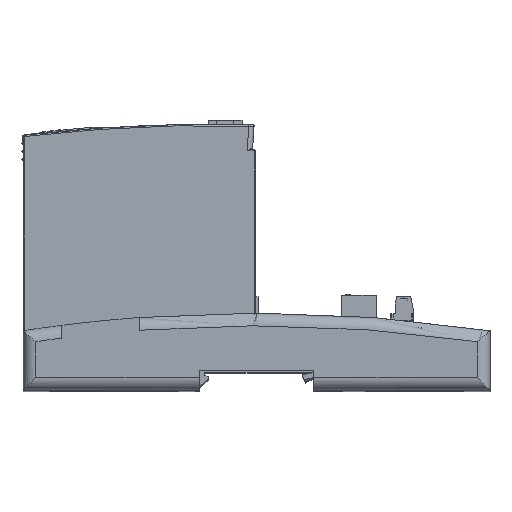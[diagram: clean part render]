
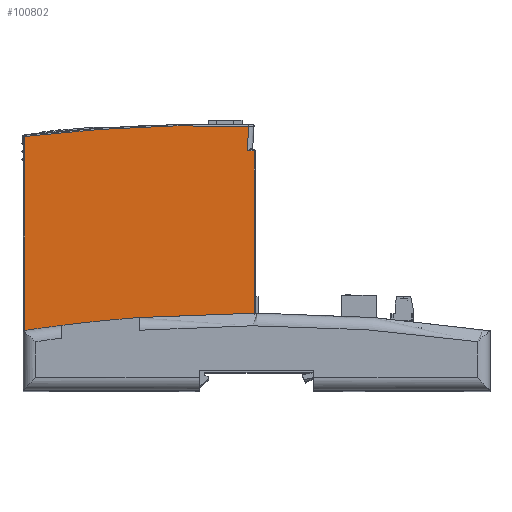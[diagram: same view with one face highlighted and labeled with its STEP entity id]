
A CAD part, top view. The second image highlights one B-rep face of the part: STEP entity #100802.
In plain terms, the highlighted planar face has unit normal (0, 0, 1).
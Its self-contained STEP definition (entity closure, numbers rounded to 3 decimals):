
#28015=CARTESIAN_POINT('',(86.601,92.3,
-0.204));
#28042=DIRECTION('',(1.,0.,-0.001));
#28043=VECTOR('',#28042,3.);
#28044=CARTESIAN_POINT('',(30.6,21.1,-0.2));
#28045=LINE('',#28044,#28043);
#28046=DIRECTION('',(-1.,0.,0.));
#28047=VECTOR('',#28046,25.);
#28048=CARTESIAN_POINT('',(28.6,21.1,-0.203));
#28049=LINE('',#28048,#28047);
#28050=DIRECTION('',(0.,1.,0.));
#28051=VECTOR('',#28050,2.);
#28052=CARTESIAN_POINT('',(3.6,21.1,-0.203));
#28053=LINE('',#28052,#28051);
#28054=CARTESIAN_POINT('',(71.564,-497.429,-0.205));
#28055=DIRECTION('',(0.,0.,-1.));
#28056=DIRECTION('',(-0.118,0.993,0.));
#28057=AXIS2_PLACEMENT_3D('',#28054,#28055,#28056);
#28059=CARTESIAN_POINT('',(178.6,92.8,-0.205));
#28060=DIRECTION('',(0.,0.,1.));
#28061=DIRECTION('',(-0.995,0.099,0.));
#28062=AXIS2_PLACEMENT_3D('',#28059,#28060,#28061);
#28064=DIRECTION('',(1.,0.,0.));
#28065=VECTOR('',#28064,2.499);
#28066=CARTESIAN_POINT('',(86.601,92.3,
-0.204));
#28067=LINE('',#28066,#28065);
#28068=DIRECTION('',(0.,-1.,0.));
#28069=VECTOR('',#28068,71.2);
#28070=CARTESIAN_POINT('',(89.1,92.3,-0.204));
#28071=LINE('',#28070,#28069);
#28072=DIRECTION('',(1.,0.,0.));
#28073=VECTOR('',#28072,63.6);
#28074=CARTESIAN_POINT('',(89.1,21.1,-0.203));
#28075=LINE('',#28074,#28073);
#28076=DIRECTION('',(-1.,0.,0.));
#28077=VECTOR('',#28076,122.1);
#28078=CARTESIAN_POINT('',(152.7,18.7,-0.2));
#28079=LINE('',#28078,#28077);
#28080=DIRECTION('',(0.,1.,0.));
#28081=VECTOR('',#28080,2.4);
#28082=CARTESIAN_POINT('',(30.6,18.7,-0.2));
#28083=LINE('',#28082,#28081);
#28088=DIRECTION('',(0.,-1.,0.001));
#28089=VECTOR('',#28088,2.);
#28090=CARTESIAN_POINT('',(33.6,23.1,-0.203));
#28091=LINE('',#28090,#28089);
#28532=DIRECTION('',(1.,0.,0.));
#28533=VECTOR('',#28532,3.);
#28534=CARTESIAN_POINT('',(0.6,23.1,-0.203));
#28535=LINE('',#28534,#28533);
#28598=DIRECTION('',(0.,-1.,0.));
#28599=VECTOR('',#28598,74.756);
#28600=CARTESIAN_POINT('',(0.6,97.856,-0.204));
#28601=LINE('',#28600,#28599);
#31260=DIRECTION('',(0.,1.,0.));
#31261=VECTOR('',#31260,2.);
#31262=CARTESIAN_POINT('',(28.6,21.1,-0.203));
#31263=LINE('',#31262,#31261);
#31268=DIRECTION('',(1.,0.,0.));
#31269=VECTOR('',#31268,5.);
#31270=CARTESIAN_POINT('',(28.6,23.1,-0.203));
#31271=LINE('',#31270,#31269);
#31402=DIRECTION('',(0.,1.,0.));
#31403=VECTOR('',#31402,2.4);
#31404=CARTESIAN_POINT('',(152.7,18.7,-0.2));
#31405=LINE('',#31404,#31403);
#49899=CARTESIAN_POINT('',(30.6,18.7,-0.2));
#49900=VERTEX_POINT('',#49899);
#49969=CARTESIAN_POINT('',(30.6,21.1,-0.2));
#49971=VERTEX_POINT('',#49969);
#49997=CARTESIAN_POINT('',(152.7,18.7,-0.2));
#49998=VERTEX_POINT('',#49997);
#49999=CARTESIAN_POINT('',(152.7,21.1,-0.2));
#50000=VERTEX_POINT('',#49999);
#51740=CARTESIAN_POINT('',(3.6,21.1,-0.203));
#51742=VERTEX_POINT('',#51740);
#51745=CARTESIAN_POINT('',(28.6,21.1,-0.203));
#51747=VERTEX_POINT('',#51745);
#51750=CARTESIAN_POINT('',(3.6,23.1,-0.203));
#51752=VERTEX_POINT('',#51750);
#53035=CARTESIAN_POINT('',(0.6,97.856,-0.205));
#53036=VERTEX_POINT('',#53035);
#53037=CARTESIAN_POINT('',(87.048,101.871,-0.205));
#53038=VERTEX_POINT('',#53037);
#53043=VERTEX_POINT('',#28015);
#53044=CARTESIAN_POINT('',(89.1,92.3,-0.205));
#53045=VERTEX_POINT('',#53044);
#53046=CARTESIAN_POINT('',(28.6,23.1,-0.203));
#53047=CARTESIAN_POINT('',(33.6,23.1,-0.203));
#53048=VERTEX_POINT('',#53046);
#53049=VERTEX_POINT('',#53047);
#53050=CARTESIAN_POINT('',(0.6,23.1,-0.203));
#53051=VERTEX_POINT('',#53050);
#59914=CARTESIAN_POINT('',(89.1,21.1,-0.205));
#59915=VERTEX_POINT('',#59914);
#59932=CARTESIAN_POINT('',(33.6,21.1,-0.202));
#59933=VERTEX_POINT('',#59932);
#100767=CARTESIAN_POINT('',(91.65,19.9,-0.2));
#100768=DIRECTION('',(0.,0.,1.));
#100769=DIRECTION('',(1.,0.,0.));
#100770=AXIS2_PLACEMENT_3D('',#100767,#100768,#100769);
#100771=PLANE('',#100770);
#100772=ORIENTED_EDGE('',*,*,#89224,.T.);
#100774=ORIENTED_EDGE('',*,*,#100773,.F.);
#100776=ORIENTED_EDGE('',*,*,#100775,.F.);
#100778=ORIENTED_EDGE('',*,*,#100777,.F.);
#100780=ORIENTED_EDGE('',*,*,#100779,.T.);
#100782=ORIENTED_EDGE('',*,*,#100781,.T.);
#100784=ORIENTED_EDGE('',*,*,#100783,.F.);
#100786=ORIENTED_EDGE('',*,*,#100785,.F.);
#100788=ORIENTED_EDGE('',*,*,#100787,.T.);
#100789=ORIENTED_EDGE('',*,*,#100758,.T.);
#100791=ORIENTED_EDGE('',*,*,#100790,.T.);
#100793=ORIENTED_EDGE('',*,*,#100792,.T.);
#100794=ORIENTED_EDGE('',*,*,#89210,.T.);
#100796=ORIENTED_EDGE('',*,*,#100795,.F.);
#100797=ORIENTED_EDGE('',*,*,#86897,.T.);
#100799=ORIENTED_EDGE('',*,*,#100798,.T.);
#100800=EDGE_LOOP('',(#100772,#100774,#100776,#100778,#100780,#100782,#100784,
#100786,#100788,#100789,#100791,#100793,#100794,#100796,#100797,#100799));
#100801=FACE_OUTER_BOUND('',#100800,.F.);
#28058=CIRCLE('',#28057,599.5);
#28063=CIRCLE('',#28062,92.);
#86897=EDGE_CURVE('',#49998,#49900,#28079,.T.);
#89210=EDGE_CURVE('',#59915,#50000,#28075,.T.);
#89224=EDGE_CURVE('',#49971,#59933,#28045,.T.);
#100758=EDGE_CURVE('',#53038,#53043,#28063,.T.);
#100773=EDGE_CURVE('',#53049,#59933,#28091,.T.);
#100775=EDGE_CURVE('',#53048,#53049,#31271,.T.);
#100777=EDGE_CURVE('',#51747,#53048,#31263,.T.);
#100779=EDGE_CURVE('',#51747,#51742,#28049,.T.);
#100781=EDGE_CURVE('',#51742,#51752,#28053,.T.);
#100783=EDGE_CURVE('',#53051,#51752,#28535,.T.);
#100785=EDGE_CURVE('',#53036,#53051,#28601,.T.);
#100787=EDGE_CURVE('',#53036,#53038,#28058,.T.);
#100790=EDGE_CURVE('',#53043,#53045,#28067,.T.);
#100792=EDGE_CURVE('',#53045,#59915,#28071,.T.);
#100795=EDGE_CURVE('',#49998,#50000,#31405,.T.);
#100798=EDGE_CURVE('',#49900,#49971,#28083,.T.);
#100802=ADVANCED_FACE('',(#100801),#100771,.T.);
